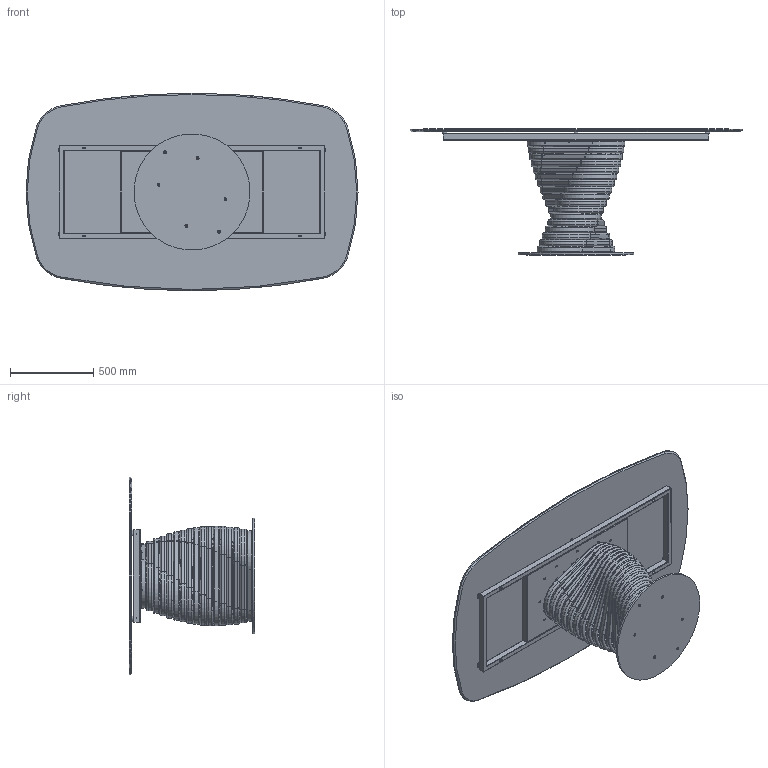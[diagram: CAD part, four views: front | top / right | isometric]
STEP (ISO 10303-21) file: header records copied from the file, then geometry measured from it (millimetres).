
FILE_DESCRIPTION (( 'STEP AP203' ), '1' );
FILE_NAME ('RO40C.STEP', '2024-08-07T13:37:19', ( '' ), ( '' ), 'SwSTEP 2.0', 'SolidWorks 2022', '' );
FILE_SCHEMA (( 'CONFIG_CONTROL_DESIGN' ));
Length unit declared in the file: millimetre
Products named in the file (15): M8xXXmm_M8x20mm; TTAV01-05-TELAIO UNIVERSALE X TAVOLI 180 240cm; M8xXXmm_hex_M8X20mm; TTAV01_02-05-VASSOIO IRRIGIDIMENTO TELAIO UNIVERSALE; ROB200000-00-PIASTRA BASE_Ø70cm; ROBX00000INF-00-Anello rotolo INFERIORE_Default<A macchina>; ROBX00000SUP-00-Anello rotolo SUPERIORE_Default<A macchina>; TTAV01_01-05-TELAIO UNIVERSALE X TAVOLI 180 240cm; ROBX00000MED-00-Anello rotolo MEDIO_Default<A macchina>; rondella M8_8X24; ROBX00000-00-ROTOLO BASE 17 ANELLI; 434070-00-PIEDINO TPV GOMMA NERO D. 30x8max18_filo estetico; K4XCMXX-00-Piani Sagomati in ceramica_2000 x 1190; COLLO TELAIO UNIVERSALE TTAV01 CON FERRAMENTA_MTG TOP CRISTALLO VERNICIATO-CERAMICA; RO40C
Assembly tree (44 placements, depth 4):
  RO40C
    ROB200000-00-PIASTRA BASE_Ø70cm
    ROBX00000-00-ROTOLO BASE 17 ANELLI
      ROBX00000INF-00-Anello rotolo INFERIORE_Default<A macchina>
      ROBX00000MED-00-Anello rotolo MEDIO_Default<A macchina>  x15
      ROBX00000SUP-00-Anello rotolo SUPERIORE_Default<A macchina>
    M8xXXmm_hex_M8X20mm  x6
    COLLO TELAIO UNIVERSALE TTAV01 CON FERRAMENTA_MTG TOP CRISTALLO VERNICIATO-CERAMICA
      TTAV01-05-TELAIO UNIVERSALE X TAVOLI 180 240cm
        TTAV01_02-05-VASSOIO IRRIGIDIMENTO TELAIO UNIVERSALE
        TTAV01_01-05-TELAIO UNIVERSALE X TAVOLI 180 240cm
      434070-00-PIEDINO TPV GOMMA NERO D. 30x8max18_filo estetico  x6
    rondella M8_8X24  x4
    M8xXXmm_M8x20mm  x4
    K4XCMXX-00-Piani Sagomati in ceramica_2000 x 1190
Bounding box: 2000 x 758 x 1190 mm (x, y, z)
Volume: 47412749.6 mm3; surface area: 16515256.9 mm2
Topology: 99 solids, 99 shells, 1517 faces, 3597 edges, 2252 vertices
Faces by surface type: plane 616, cylinder 564, torus 220, cone 109, sphere 8
Entity records: 21325 total; most frequent: CARTESIAN_POINT 4799, DIRECTION 3092, ORIENTED_EDGE 2834, EDGE_CURVE 1417, AXIS2_PLACEMENT_3D 1166, VERTEX_POINT 897, VECTOR 760, LINE 760
